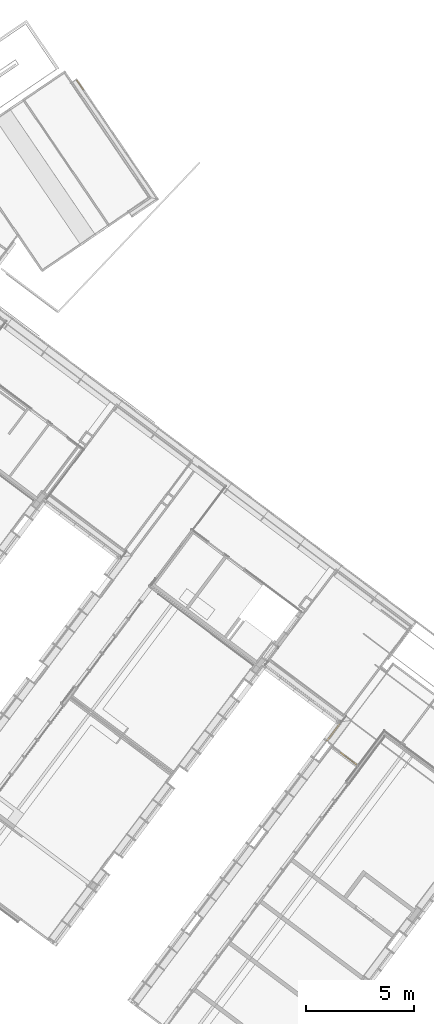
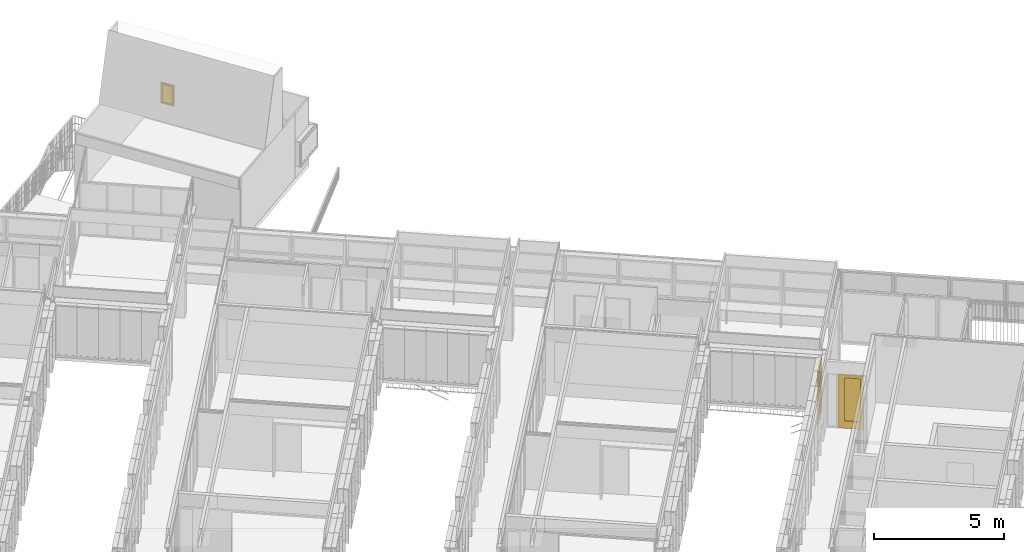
# One storey, part 238 of 243: 2 doors, 1 window, 3 elements without a shape of their own.
"""IFC2X3 building model written with IfcOpenShell, lengths in metres."""

from ifc_helpers import new_model, entity, si_unit, converted_unit, derived_unit, direction, frame, origin, place, context, subcontext, project, spatial, faceted_brep, source, transform, mapped, material, material_list, type_object, type_shapes, element, aggregate, save


model = new_model("IFC2X3")

# Units and contexts
model_context = context("Model", 3, precision=1e-05, world=origin(), true_north=direction((6.123031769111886e-17, 1.0)))
body_context = subcontext(model_context, "Body", "Model", "MODEL_VIEW")
ifc_project = project(units=[si_unit("LENGTHUNIT", "METRE"), si_unit("AREAUNIT", "SQUARE_METRE"), si_unit("VOLUMEUNIT", "CUBIC_METRE"), converted_unit("PLANEANGLEUNIT", "DEGREE", entity("IfcRatioMeasure", 0.017453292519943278), si_unit("PLANEANGLEUNIT", "RADIAN"), dimensions=[0, 0, 0, 0, 0, 0, 0]), si_unit("MASSUNIT", "GRAM", prefix="KILO"), derived_unit("MASSDENSITYUNIT", [(si_unit("MASSUNIT", "GRAM", prefix="KILO"), 1), (si_unit("LENGTHUNIT", "METRE"), -3)]), derived_unit("IONCONCENTRATIONUNIT", [(si_unit("MASSUNIT", "GRAM", prefix="KILO"), 1), (si_unit("LENGTHUNIT", "METRE"), -3)]), derived_unit("MOMENTOFINERTIAUNIT", [(si_unit("LENGTHUNIT", "METRE"), 4)]), si_unit("TIMEUNIT", "SECOND"), si_unit("FREQUENCYUNIT", "HERTZ"), si_unit("THERMODYNAMICTEMPERATUREUNIT", "DEGREE_CELSIUS"), derived_unit("THERMALTRANSMITTANCEUNIT", [(si_unit("MASSUNIT", "GRAM", prefix="KILO"), 1), (si_unit("THERMODYNAMICTEMPERATUREUNIT", "KELVIN"), -1), (si_unit("TIMEUNIT", "SECOND"), -3)]), derived_unit("THERMALCONDUCTANCEUNIT", [(si_unit("MASSUNIT", "GRAM", prefix="KILO"), 1), (si_unit("THERMODYNAMICTEMPERATUREUNIT", "KELVIN"), -1), (si_unit("TIMEUNIT", "SECOND"), -3), (si_unit("LENGTHUNIT", "METRE"), 1)]), derived_unit("VOLUMETRICFLOWRATEUNIT", [(si_unit("LENGTHUNIT", "METRE"), 3), (si_unit("TIMEUNIT", "SECOND"), -1)]), derived_unit("MASSFLOWRATEUNIT", [(si_unit("MASSUNIT", "GRAM", prefix="KILO"), 1), (si_unit("TIMEUNIT", "SECOND"), -1)]), derived_unit("ROTATIONALFREQUENCYUNIT", [(si_unit("TIMEUNIT", "SECOND"), -1)]), si_unit("ELECTRICCURRENTUNIT", "AMPERE"), si_unit("ELECTRICVOLTAGEUNIT", "VOLT"), si_unit("POWERUNIT", "WATT"), si_unit("FORCEUNIT", "NEWTON", prefix="KILO"), si_unit("ILLUMINANCEUNIT", "LUX"), si_unit("LUMINOUSFLUXUNIT", "LUMEN"), si_unit("LUMINOUSINTENSITYUNIT", "CANDELA"), derived_unit("USERDEFINED", [(si_unit("MASSUNIT", "GRAM", prefix="KILO"), -1), (si_unit("LENGTHUNIT", "METRE"), -2), (si_unit("TIMEUNIT", "SECOND"), 3), (si_unit("LUMINOUSFLUXUNIT", "LUMEN"), 1)]), derived_unit("USERDEFINED", [(si_unit("MASSUNIT", "GRAM", prefix="KILO"), 1), (si_unit("TIMEUNIT", "SECOND"), -3), (si_unit("LENGTHUNIT", "METRE"), 3), (si_unit("ELECTRICCURRENTUNIT", "AMPERE"), -2)]), derived_unit("SOUNDPOWERUNIT", [(si_unit("MASSUNIT", "GRAM", prefix="KILO"), 1), (si_unit("TIMEUNIT", "SECOND"), -3), (si_unit("LENGTHUNIT", "METRE"), 2)]), derived_unit("SOUNDPRESSUREUNIT", [(si_unit("MASSUNIT", "GRAM", prefix="KILO"), 1), (si_unit("LENGTHUNIT", "METRE"), -1), (si_unit("TIMEUNIT", "SECOND"), -2)]), derived_unit("LINEARVELOCITYUNIT", [(si_unit("LENGTHUNIT", "METRE"), 1), (si_unit("TIMEUNIT", "SECOND"), -1)]), si_unit("PRESSUREUNIT", "PASCAL"), derived_unit("USERDEFINED", [(si_unit("MASSUNIT", "GRAM", prefix="KILO"), 1), (si_unit("LENGTHUNIT", "METRE"), -2), (si_unit("TIMEUNIT", "SECOND"), -2)]), derived_unit("LINEARFORCEUNIT", [(si_unit("MASSUNIT", "GRAM", prefix="KILO"), 1), (si_unit("TIMEUNIT", "SECOND"), -2)]), derived_unit("PLANARFORCEUNIT", [(si_unit("MASSUNIT", "GRAM", prefix="KILO"), 1), (si_unit("LENGTHUNIT", "METRE"), -1), (si_unit("TIMEUNIT", "SECOND"), -2)]), derived_unit("SPECIFICHEATCAPACITYUNIT", [(si_unit("THERMODYNAMICTEMPERATUREUNIT", "KELVIN"), -1), (si_unit("LENGTHUNIT", "METRE"), 2), (si_unit("TIMEUNIT", "SECOND"), -2)]), derived_unit("HEATINGVALUEUNIT", [(si_unit("LENGTHUNIT", "METRE"), 2), (si_unit("TIMEUNIT", "SECOND"), -2)]), derived_unit("VAPORPERMEABILITYUNIT", [(si_unit("LENGTHUNIT", "METRE"), -1), (si_unit("TIMEUNIT", "SECOND"), 1)]), derived_unit("DYNAMICVISCOSITYUNIT", [(si_unit("MASSUNIT", "GRAM", prefix="KILO"), 1), (si_unit("TIMEUNIT", "SECOND"), -1), (si_unit("LENGTHUNIT", "METRE"), -1)]), derived_unit("THERMALEXPANSIONCOEFFICIENTUNIT", [(si_unit("THERMODYNAMICTEMPERATUREUNIT", "KELVIN"), -1)]), derived_unit("MODULUSOFELASTICITYUNIT", [(si_unit("MASSUNIT", "GRAM", prefix="KILO"), 1), (si_unit("LENGTHUNIT", "METRE"), -1), (si_unit("TIMEUNIT", "SECOND"), -2)]), derived_unit("ISOTHERMALMOISTURECAPACITYUNIT", [(si_unit("LENGTHUNIT", "METRE"), 3), (si_unit("MASSUNIT", "GRAM", prefix="KILO"), -1)]), derived_unit("MOISTUREDIFFUSIVITYUNIT", [(si_unit("TIMEUNIT", "SECOND"), -1), (si_unit("LENGTHUNIT", "METRE"), 2)])], contexts=[model_context])

# Site, building, storey
site_placement = place(None, frame((0.0, 0.0, 235.0), z_axis=(0.0, 0.0, 1.0), x_axis=(-0.7996477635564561, 0.6004693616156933, 0.0)))
site = spatial("IfcSite", under=ifc_project, at=site_placement, Name="Default", CompositionType="ELEMENT")
building_placement = place(site_placement, origin())
building = spatial("IfcBuilding", under=site, at=building_placement, CompositionType="ELEMENT")
storey_placement = place(building_placement, origin())
storey = spatial("IfcBuildingStorey", under=building, at=storey_placement, Name="P0- Escola", CompositionType="ELEMENT", Elevation=0.0)

# Curtain wall, window
curtain_wall_type_1 = type_object("IfcCurtainWallType", Name="Muro cortina:MC- EXT- MC7", PredefinedType="NOTDEFINED")
curtain_wall_1_placement = place(storey_placement, origin())
curtain_wall_1 = element("IfcCurtainWall", 1, at=curtain_wall_1_placement, inside=storey, type_object=curtain_wall_type_1, Name="Muro cortina:MC- EXT- MC7", ObjectType="Muro cortina:MC- EXT- MC7")
ifc_material_1 = material(Name="_Vidre")
ifc_material_2 = material(Name="_Alumini- T1- Perfil")
ifc_material_list_1 = material_list([ifc_material_1, ifc_material_2])
window_style = type_object("IfcWindowStyle", Name="MC- Alu- Conjunt finestra basculant- 68x68 cm:MC- Alu- Conjunt finestra basculant- 68x68 cm", ConstructionType="NOTDEFINED", OperationType="NOTDEFINED", ParameterTakesPrecedence=False, Sizeable=False, material=ifc_material_list_1)
shared_shape_1 = source(origin(), body_context, "Body", "Brep", [
    faceted_brep([(0.22741171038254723, -0.03559830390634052, 0.051999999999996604), (-0.22741171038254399, -0.03559830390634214, 0.051999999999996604), (-0.227411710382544, -0.011598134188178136, 0.051999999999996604), (0.22741171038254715, -0.011598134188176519, 0.051999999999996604), (0.22741171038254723, -0.03559830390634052, 0.9153027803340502), (0.22741171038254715, -0.011598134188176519, 0.9153027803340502), (-0.22741171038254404, -0.011598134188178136, 0.9153027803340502), (-0.22741171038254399, -0.03559830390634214, 0.9153027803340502)], [[[0, 1, 2, 3]], [[4, 0, 3, 5]], [[5, 3, 2, 6]], [[6, 2, 1, 7]], [[7, 1, 0, 4]], [[4, 5, 6, 7]]]),
    faceted_brep([(-0.21171088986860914, -0.00999812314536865, 0.8996019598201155), (-0.21171088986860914, -0.00999812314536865, 0.06789804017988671), (-0.21171088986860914, -0.00799810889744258, 0.06789804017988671), (-0.21171088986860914, -0.00799810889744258, 0.8996019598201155), (-0.24060893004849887, -0.007998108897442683, 0.9285000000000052), (0.24060893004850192, -0.007998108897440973, 0.9285000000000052), (0.24060893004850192, -0.007998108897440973, 0.03899999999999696), (-0.24060893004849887, -0.007998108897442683, 0.03899999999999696), (0.21171088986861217, -0.007998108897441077, 0.8996019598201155), (0.21171088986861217, -0.007998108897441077, 0.06789804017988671), (0.21171088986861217, -0.009998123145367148, 0.06789804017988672), (0.21171088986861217, -0.009998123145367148, 0.8996019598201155), (0.22741171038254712, -0.009998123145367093, 0.9153027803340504), (-0.2274117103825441, -0.009998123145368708, 0.9153027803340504), (-0.2274117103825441, -0.009998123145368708, 0.05219721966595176), (0.22741171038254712, -0.009998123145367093, 0.052197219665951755), (-0.22741171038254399, -0.04079986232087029, 0.9153027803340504), (-0.2274117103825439, -0.04079986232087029, 0.052197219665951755), (0.22741171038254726, -0.04079986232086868, 0.05219721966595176), (0.22741171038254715, -0.04079986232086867, 0.9153027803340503), (0.21171088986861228, -0.04079986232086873, 0.8996019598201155), (-0.21171088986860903, -0.04079986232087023, 0.8996019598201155), (-0.21171088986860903, -0.04079986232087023, 0.06789804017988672), (0.21171088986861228, -0.04079986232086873, 0.06789804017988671), (-0.21171088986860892, -0.06800005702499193, 0.8996019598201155), (-0.21171088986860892, -0.06800005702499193, 0.06789804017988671), (0.21171088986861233, -0.06800005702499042, 0.06789804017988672), (0.2117108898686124, -0.06800005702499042, 0.8996019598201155), (0.2581128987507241, -0.06800005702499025, 0.9460039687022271), (-0.25811289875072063, -0.06800005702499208, 0.9460039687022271), (-0.25811289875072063, -0.06800005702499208, 0.021496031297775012), (0.2581128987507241, -0.06800005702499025, 0.021496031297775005), (-0.25811289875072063, -0.06450003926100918, 0.9460039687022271), (-0.2581128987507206, -0.06450003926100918, 0.021496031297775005), (0.2581128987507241, -0.06450003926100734, 0.021496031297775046), (0.258112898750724, -0.06450003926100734, 0.9460039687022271), (0.24060893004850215, -0.0645000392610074, 0.9285000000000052), (-0.24060893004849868, -0.06450003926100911, 0.9285000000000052), (-0.24060893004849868, -0.06450003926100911, 0.03899999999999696), (0.24060893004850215, -0.0645000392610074, 0.038999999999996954)], [[[0, 1, 2, 3]], [[4, 5, 6, 7], [8, 3, 2, 9]], [[1, 10, 9, 2]], [[0, 11, 10, 1], [12, 13, 14, 15]], [[16, 17, 14, 13]], [[17, 18, 15, 14]], [[16, 19, 18, 17], [20, 21, 22, 23]], [[24, 25, 22, 21]], [[25, 26, 23, 22]], [[24, 27, 26, 25], [28, 29, 30, 31]], [[32, 33, 30, 29]], [[33, 34, 31, 30]], [[32, 35, 34, 33], [36, 37, 38, 39]], [[4, 7, 38, 37]], [[7, 6, 39, 38]], [[10, 11, 8, 9]], [[18, 19, 12, 15]], [[26, 27, 20, 23]], [[34, 35, 28, 31]], [[6, 5, 36, 39]], [[11, 0, 3, 8]], [[19, 16, 13, 12]], [[27, 24, 21, 20]], [[35, 32, 29, 28]], [[5, 4, 37, 36]]], outer=[[True], [True, False], [True], [False, True], [True], [True], [True, False], [True], [True], [False, True], [True], [True], [True, False], [True], [True], [True], [True], [True], [True], [True], [True], [True], [True], [True], [True]]),
    faceted_brep([(0.21669318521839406, 0.0, 0.9046931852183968), (0.21669318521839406, 0.0, 0.06280681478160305), (0.21669318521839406, -0.0040000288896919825, 0.06280681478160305), (0.21669318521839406, -0.0040000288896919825, 0.9046931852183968), (-0.21669318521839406, -0.0040000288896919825, 0.9046931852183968), (-0.21669318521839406, -0.0040000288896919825, 0.06280681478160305), (0.25209980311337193, -0.0040000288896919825, 0.9400998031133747), (-0.25209980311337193, -0.0040000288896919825, 0.9400998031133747), (-0.25209980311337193, -0.0040000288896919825, 0.02740019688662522), (0.25209980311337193, -0.0040000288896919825, 0.02740019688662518), (-0.21669318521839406, 0.0, 0.06280681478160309), (-0.21669318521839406, 0.0, 0.9046931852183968), (-0.279499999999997, 0.0, 0.9674999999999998), (0.279499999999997, 0.0, 0.9674999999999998), (0.279499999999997, 0.0, 0.0), (-0.279499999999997, 0.0, 0.0), (0.279499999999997, -0.05999999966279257, 0.9674999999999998), (0.2794999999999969, -0.05999999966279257, 0.0), (-0.279499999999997, -0.05999999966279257, 0.0), (-0.2794999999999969, -0.05999999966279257, 0.9674999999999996), (-0.25209980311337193, -0.05999999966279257, 0.9400998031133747), (0.25209980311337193, -0.05999999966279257, 0.9400998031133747), (0.25209980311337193, -0.05999999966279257, 0.027400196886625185), (-0.25209980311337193, -0.05999999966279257, 0.02740019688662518)], [[[0, 1, 2, 3]], [[4, 3, 2, 5], [6, 7, 8, 9]], [[1, 10, 5, 2]], [[0, 11, 10, 1], [12, 13, 14, 15]], [[16, 17, 14, 13]], [[17, 18, 15, 14]], [[16, 19, 18, 17], [20, 21, 22, 23]], [[6, 9, 22, 21]], [[9, 8, 23, 22]], [[10, 11, 4, 5]], [[18, 19, 12, 15]], [[8, 7, 20, 23]], [[11, 0, 3, 4]], [[19, 16, 13, 12]], [[7, 6, 21, 20]]], outer=[[True], [False, True], [True], [False, True], [True], [True], [True, False], [True], [True], [True], [True], [True], [True], [True], [True]]),
])
type_shapes(window_style, [shared_shape_1])
window_placement = place(curtain_wall_1_placement, frame((63.9471932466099, -52.85730784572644, 0.685), z_axis=(0.0, 0.0, 1.0), x_axis=(-0.9460037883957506, 0.3241555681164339, 0.0)))
window = element("IfcWindow", 2, at=window_placement, type_object=window_style, material=ifc_material_list_1, Name="MC- Alu- Conjunt finestra basculant- 68x68 cm:MC- Alu- Conjunt finestra basculant- 68x68 cm", ObjectType="MC- Alu- Conjunt finestra basculant- 68x68 cm:MC- Alu- Conjunt finestra basculant- 68x68 cm", OverallHeight=0.9674999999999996, OverallWidth=0.5589999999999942, context=body_context, shape_type="MappedRepresentation", body=[
    mapped(shared_shape_1, transform((0.0, 0.0, 0.0), scale=1.0)),
])
aggregate(curtain_wall_1, [window])

# Curtain wall, door
curtain_wall_type_2 = type_object("IfcCurtainWallType", Name="Muro cortina:MC- EXT- MC5", PredefinedType="NOTDEFINED")
curtain_wall_2_placement = place(storey_placement, origin())
curtain_wall_2 = element("IfcCurtainWall", 3, at=curtain_wall_2_placement, inside=storey, type_object=curtain_wall_type_2, Name="Muro cortina:MC- EXT- MC5", ObjectType="Muro cortina:MC- EXT- MC5")
ifc_material_list_2 = material_list([ifc_material_2, ifc_material_1])
door_style_1 = type_object("IfcDoorStyle", Name="MC- Alu- Conjunt porta- 70x60 cm- +15cm:MC- Alu- Conjunt porta- 70x60 cm- +15cm", ConstructionType="NOTDEFINED", OperationType="SINGLE_SWING_RIGHT", ParameterTakesPrecedence=False, Sizeable=False, material=ifc_material_list_2)
shared_shape_2 = source(origin(), body_context, "Body", "Brep", [
    faceted_brep([(-0.41167409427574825, -0.06999999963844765, 0.024000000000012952), (-0.41167409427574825, -0.004300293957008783, 0.024000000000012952), (0.4116740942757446, -0.004300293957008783, 0.024000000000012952), (0.4116740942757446, -0.06999999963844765, 0.024000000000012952), (-0.4116740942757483, -0.004300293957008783, 2.410449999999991), (-0.4116740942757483, -0.06999999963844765, 2.410449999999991), (0.4116740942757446, -0.004300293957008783, 2.410449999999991), (0.4356740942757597, -0.004300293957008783, 0.0), (0.4356740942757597, -0.004300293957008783, 2.434450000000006), (-0.43567409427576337, -0.004300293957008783, 2.434450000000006), (-0.43567409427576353, -0.004300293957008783, 0.0), (0.4116740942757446, -0.06999999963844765, 2.410449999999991), (-0.33507409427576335, -0.06999999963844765, 2.333850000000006), (0.33507409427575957, -0.06999999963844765, 2.333850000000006), (0.33507409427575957, -0.06999999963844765, 0.20400000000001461), (-0.33507409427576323, -0.06999999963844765, 0.20400000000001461), (0.4356740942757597, -2.945720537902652e-07, 2.434450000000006), (0.4356740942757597, -2.945720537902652e-07, 0.0), (-0.43567409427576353, -2.945720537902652e-07, 0.0), (-0.43567409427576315, -2.945720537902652e-07, 2.434450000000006), (0.3350740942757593, -2.945720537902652e-07, 2.333850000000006), (-0.3350740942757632, -2.945720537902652e-07, 2.333850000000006), (-0.33507409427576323, -2.945720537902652e-07, 0.20400000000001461), (0.3350740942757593, -2.945720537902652e-07, 0.20400000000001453), (0.3350740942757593, -0.005500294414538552, 2.333850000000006), (0.33507409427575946, -0.005500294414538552, 0.20400000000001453), (-0.33507409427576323, -0.005500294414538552, 0.20400000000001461), (-0.33507409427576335, -0.005500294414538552, 2.333850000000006), (0.3600740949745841, -0.005500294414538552, 2.3588500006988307), (-0.36007409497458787, -0.005500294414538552, 2.3588500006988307), (-0.36007409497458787, -0.005500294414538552, 0.17899999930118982), (0.3600740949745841, -0.005500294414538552, 0.17899999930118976), (0.3600740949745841, -0.051000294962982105, 2.3588500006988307), (0.3600740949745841, -0.051000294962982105, 0.17899999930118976), (-0.36007409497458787, -0.051000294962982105, 0.17899999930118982), (-0.3600740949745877, -0.051000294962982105, 2.3588500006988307), (0.3350740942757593, -0.051000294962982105, 2.333850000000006), (-0.3350740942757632, -0.051000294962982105, 2.333850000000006), (-0.33507409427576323, -0.051000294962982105, 0.20400000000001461), (0.3350740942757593, -0.051000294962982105, 0.20400000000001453)], [[[0, 1, 2, 3]], [[4, 1, 0, 5]], [[2, 1, 4, 6], [7, 8, 9, 10]], [[2, 6, 11, 3]], [[12, 13, 14, 15], [11, 5, 0, 3]], [[16, 8, 7, 17]], [[10, 18, 17, 7]], [[18, 19, 16, 17], [20, 21, 22, 23]], [[24, 20, 23, 25]], [[23, 22, 26, 25]], [[27, 24, 25, 26], [28, 29, 30, 31]], [[32, 28, 31, 33]], [[33, 31, 30, 34]], [[35, 32, 33, 34], [36, 37, 38, 39]], [[13, 36, 39, 14]], [[39, 38, 15, 14]], [[9, 19, 18, 10]], [[21, 27, 26, 22]], [[29, 35, 34, 30]], [[37, 12, 15, 38]], [[19, 9, 8, 16]], [[27, 21, 20, 24]], [[35, 29, 28, 32]], [[12, 37, 36, 13]], [[4, 5, 11, 6]]], outer=[[True], [True], [False, True], [True], [False, True], [True], [True], [True, False], [True], [True], [False, True], [True], [True], [True, False], [True], [True], [True], [True], [True], [True], [True], [True], [True], [True], [True]]),
    faceted_brep([(0.3600740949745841, -0.00910019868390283, 0.17899999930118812), (0.3600740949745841, -0.041100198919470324, 0.17899999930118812), (-0.3600740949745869, -0.041100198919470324, 0.17899999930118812), (-0.36007409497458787, -0.00910019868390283, 0.17899999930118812), (0.3600740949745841, -0.00910019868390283, 2.358850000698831), (0.3600740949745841, -0.041100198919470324, 2.358850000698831), (-0.3600740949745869, -0.041100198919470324, 2.358850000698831), (-0.36007409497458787, -0.00910019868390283, 2.358850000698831)], [[[0, 1, 2, 3]], [[4, 5, 1, 0]], [[5, 6, 2, 1]], [[6, 7, 3, 2]], [[7, 4, 0, 3]], [[4, 7, 6, 5]]]),
    faceted_brep([(0.4849740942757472, 0.0, 0.0), (0.4849740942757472, -0.06999999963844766, 0.0), (0.41767409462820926, -0.06999999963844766, 0.0), (0.41767409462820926, -0.061199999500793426, 0.0), (0.43317406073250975, -0.061199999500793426, 0.0), (0.43317406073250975, -0.010300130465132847, 0.0), (0.4436740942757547, -0.010300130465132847, 0.0), (0.4436740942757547, 0.0, 0.0), (0.4849740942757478, 0.0, 2.4837499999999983), (0.4849740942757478, -0.06999999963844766, 2.4837499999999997), (-0.4849740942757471, -0.06999999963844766, 2.4837499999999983), (-0.4849740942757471, -0.06999999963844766, 0.0), (-0.4176740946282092, -0.06999999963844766, 0.0), (-0.4176740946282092, -0.06999999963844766, 2.4164500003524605), (0.41767409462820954, -0.06999999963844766, 2.416450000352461), (0.41767409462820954, -0.061199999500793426, 2.416450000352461), (-0.4176740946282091, -0.061199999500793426, 2.4164500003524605), (-0.4176740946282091, -0.061199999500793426, 0.0), (-0.43317406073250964, -0.061199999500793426, 0.0), (-0.43317406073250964, -0.061199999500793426, 2.4319499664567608), (0.43317406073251, -0.061199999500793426, 2.431949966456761), (0.43317406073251, -0.010300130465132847, 2.431949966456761), (-0.4331740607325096, -0.010300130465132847, 2.4319499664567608), (-0.4331740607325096, -0.010300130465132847, 0.0), (-0.44367409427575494, -0.010300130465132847, 0.0), (-0.44367409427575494, -0.010300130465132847, 2.4424500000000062), (0.4436740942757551, -0.010300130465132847, 2.4424500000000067), (0.4436740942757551, 0.0, 2.4424500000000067), (-0.4436740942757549, 0.0, 2.4424500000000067), (-0.4436740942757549, 0.0, 0.0), (-0.48497409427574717, 0.0, 0.0), (-0.48497409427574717, 0.0, 2.4837499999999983)], [[[0, 1, 2, 3, 4, 5, 6, 7]], [[1, 0, 8, 9]], [[2, 1, 9, 10, 11, 12, 13, 14]], [[3, 2, 14, 15]], [[4, 3, 15, 16, 17, 18, 19, 20]], [[5, 4, 20, 21]], [[6, 5, 21, 22, 23, 24, 25, 26]], [[7, 6, 26, 27]], [[0, 7, 27, 28, 29, 30, 31, 8]], [[30, 29, 24, 23, 18, 17, 12, 11]], [[28, 25, 24, 29]], [[22, 19, 18, 23]], [[16, 13, 12, 17]], [[10, 31, 30, 11]], [[9, 8, 31, 10]], [[15, 14, 13, 16]], [[21, 20, 19, 22]], [[27, 26, 25, 28]]]),
])
type_shapes(door_style_1, [shared_shape_2])
door_1_placement = place(curtain_wall_2_placement, frame((36.64514768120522, -35.915165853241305, 0.020000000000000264), z_axis=(0.0, 0.0, 1.0), x_axis=(0.0, -1.0, 0.0)))
door_1 = element("IfcDoor", 4, at=door_1_placement, type_object=door_style_1, material=ifc_material_list_2, Name="MC- Alu- Conjunt porta- 70x60 cm- +15cm:MC- Alu- Conjunt porta- 70x60 cm- +15cm", ObjectType="MC- Alu- Conjunt porta- 70x60 cm- +15cm:MC- Alu- Conjunt porta- 70x60 cm- +15cm", OverallHeight=2.483750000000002, OverallWidth=0.9699481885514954, context=body_context, shape_type="MappedRepresentation", body=[
    mapped(shared_shape_2, transform((0.0, 0.0, 0.0), scale=1.0)),
])
aggregate(curtain_wall_2, [door_1])

curtain_wall_type_3 = type_object("IfcCurtainWallType", Name="Muro cortina:MC- INT- C2", PredefinedType="NOTDEFINED")
curtain_wall_3_placement = place(storey_placement, origin())
curtain_wall_3 = element("IfcCurtainWall", 5, at=curtain_wall_3_placement, inside=storey, type_object=curtain_wall_type_3, Name="Muro cortina:MC- INT- C2", ObjectType="Muro cortina:MC- INT- C2")
ifc_material_3 = material(Name="_Fusta massisa- T1")
ifc_material_list_3 = material_list([ifc_material_3, ifc_material_1])
door_style_2 = type_object("IfcDoorStyle", Name="MC- Fusta- conjunt porta:MC- Fusta- conjunt Porta aules", ConstructionType="NOTDEFINED", OperationType="NOTDEFINED", ParameterTakesPrecedence=False, Sizeable=False, material=ifc_material_list_3)
shared_shape_3 = source(origin(), body_context, "Body", "Brep", [
    faceted_brep([(-0.2600000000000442, -0.034999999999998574, 2.3950000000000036), (-0.2600000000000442, -0.004999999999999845, 2.3950000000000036), (-0.2600000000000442, -0.004999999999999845, 0.3299999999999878), (-0.2600000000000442, -0.034999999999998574, 0.3299999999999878), (0.3850000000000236, -0.004999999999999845, 0.3299999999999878), (0.3850000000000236, -0.034999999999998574, 0.3299999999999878), (0.3850000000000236, -0.004999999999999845, 2.3950000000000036), (0.3850000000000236, -0.034999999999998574, 2.3950000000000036), (-0.24500000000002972, -0.004999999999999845, 2.380000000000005), (-0.24500000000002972, -0.004999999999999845, 0.3449999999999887), (0.3700000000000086, -0.004999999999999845, 0.3449999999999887), (0.37000000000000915, -0.004999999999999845, 2.380000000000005), (-0.24500000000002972, -0.034999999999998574, 2.380000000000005), (0.37000000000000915, -0.034999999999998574, 2.380000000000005), (0.3700000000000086, -0.034999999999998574, 0.3449999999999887), (-0.24500000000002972, -0.034999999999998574, 0.3449999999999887)], [[[0, 1, 2, 3]], [[3, 2, 4, 5]], [[5, 4, 6, 7]], [[8, 9, 10, 11], [1, 6, 4, 2]], [[12, 13, 14, 15], [0, 3, 5, 7]], [[15, 9, 8, 12]], [[14, 10, 9, 15]], [[13, 11, 10, 14]], [[7, 6, 1, 0]], [[12, 8, 11, 13]]], outer=[[True], [True], [True], [False, True], [False, True], [True], [True], [True], [True], [True]]),
    faceted_brep([(-0.45500000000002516, 0.02999999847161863, 0.0), (0.4549999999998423, 0.029999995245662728, 0.0), (0.4549999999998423, 0.0, 0.0), (0.4700000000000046, 0.0, 0.0), (0.4700000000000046, -0.02999999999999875, 0.0), (-0.47000000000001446, -0.02999999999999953, 0.0), (-0.47000000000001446, 0.0, 0.0), (-0.45500000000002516, 0.0, 0.0), (-0.47000000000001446, -0.029999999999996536, 2.5050000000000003), (0.4700000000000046, -0.029999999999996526, 2.5050000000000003), (-0.26000000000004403, -0.02999999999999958, 0.3300000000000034), (-0.26000000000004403, -0.030000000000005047, 2.394999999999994), (0.3850000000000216, -0.02999999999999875, 2.394999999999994), (0.3850000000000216, -0.02999999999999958, 0.3300000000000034), (-0.47000000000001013, 0.0, 2.5050000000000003), (0.4700000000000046, 0.0, 2.5050000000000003), (-0.45500000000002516, 0.02999999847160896, 2.4899999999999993), (-0.45500000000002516, 0.0, 2.4899999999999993), (0.4549999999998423, 0.0, 2.4899999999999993), (0.4549999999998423, 0.029999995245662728, 2.4899999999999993), (0.3700000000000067, 0.02999999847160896, 0.3450000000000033), (0.3700000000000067, 0.02999999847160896, 2.379999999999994), (-0.2450000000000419, 0.029999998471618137, 2.379999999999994), (-0.2450000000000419, 0.02999999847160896, 0.3450000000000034), (-0.2450000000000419, 0.015000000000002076, 0.3450000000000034), (0.3700000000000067, 0.015000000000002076, 0.3450000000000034), (-0.2450000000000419, 0.015000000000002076, 2.379999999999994), (0.3700000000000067, 0.01499999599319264, 2.379999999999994), (0.3850000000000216, 0.015000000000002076, 0.3300000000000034), (0.3850000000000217, 0.015000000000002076, 2.394999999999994), (-0.2600000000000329, 0.015000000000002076, 2.394999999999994), (-0.26000000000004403, 0.015000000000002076, 0.3300000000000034), (-0.2600000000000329, 0.01499999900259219, 0.3300000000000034), (-0.2600000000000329, 0.014999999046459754, 2.394999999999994), (0.3700000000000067, 0.029999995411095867, 2.379999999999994), (-0.2450000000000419, 0.01499999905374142, 2.379999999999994), (0.3850000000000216, 0.014999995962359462, 2.394999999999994)], [[[0, 1, 2, 3, 4, 5, 6, 7]], [[8, 5, 4, 9], [10, 11, 12, 13]], [[8, 14, 6, 5]], [[15, 9, 4, 3]], [[16, 0, 7, 17]], [[14, 15, 3, 2, 18, 17, 7, 6]], [[18, 2, 1, 19]], [[20, 21, 22, 23], [16, 19, 1, 0]], [[23, 24, 25, 20]], [[23, 22, 26, 24]], [[25, 27, 21, 20]], [[24, 26, 27, 25], [28, 29, 30, 31]], [[13, 28, 32, 10]], [[31, 33, 11, 10]], [[13, 12, 29, 28]], [[9, 15, 14, 8]], [[17, 18, 19, 16]], [[34, 27, 35, 22]], [[11, 30, 36, 12]]], outer=[[True], [True, False], [True], [True], [True], [True], [True], [False, True], [True], [True], [True], [False, True], [True], [True], [True], [True], [True], [True], [True]]),
    faceted_brep([(0.38500000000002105, 0.014999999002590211, 0.3300000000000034), (0.3850000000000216, -0.004999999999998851, 0.3300000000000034), (-0.26000000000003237, -0.0049999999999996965, 0.3300000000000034), (-0.26000000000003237, 0.014999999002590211, 0.3300000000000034), (0.38500000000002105, 0.014999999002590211, 2.3950000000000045), (-0.26000000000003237, 0.014999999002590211, 2.3950000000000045), (-0.26000000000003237, -0.0049999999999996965, 2.3950000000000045), (0.3850000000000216, -0.004999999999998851, 2.3950000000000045)], [[[0, 1, 2, 3]], [[4, 0, 3, 5]], [[5, 3, 2, 6]], [[6, 2, 1, 7]], [[7, 1, 0, 4]], [[4, 5, 6, 7]]]),
    faceted_brep([(-0.4800000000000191, -0.029999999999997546, 0.0), (-0.4800000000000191, -0.02599999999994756, 0.0), (-0.48500000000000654, -0.02599999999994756, 0.0), (-0.48500000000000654, 0.02600000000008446, 0.0), (-0.48000000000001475, 0.02600000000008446, 0.0), (-0.48000000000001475, 0.0300000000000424, 0.0), (-0.45500000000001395, 0.0300000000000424, 0.0), (-0.45500000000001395, 0.0, 0.0), (-0.4700000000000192, 0.0, 0.0), (-0.4700000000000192, -0.029999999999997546, 0.0), (-0.4700000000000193, -0.029999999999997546, 2.5050000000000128), (0.4700000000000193, -0.029999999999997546, 2.5050000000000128), (0.4700000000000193, -0.029999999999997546, 0.0), (0.4800000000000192, -0.029999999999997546, 0.0), (0.4800000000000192, -0.029999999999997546, 2.5150000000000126), (-0.48000000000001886, -0.029999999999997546, 2.515000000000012), (-0.47000000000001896, 0.0, 2.5050000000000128), (-0.45500000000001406, 0.0, 2.4900000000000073), (0.45500000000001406, 0.0, 2.4900000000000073), (0.45500000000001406, 0.0, 0.0), (0.4700000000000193, 0.0, 0.0), (0.4700000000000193, 0.0, 2.5050000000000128), (-0.455000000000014, 0.0300000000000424, 2.4900000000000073), (-0.48000000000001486, 0.0300000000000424, 2.515000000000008), (0.48000000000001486, 0.0300000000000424, 2.515000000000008), (0.48000000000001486, 0.0300000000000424, 0.0), (0.45500000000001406, 0.0300000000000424, 0.0), (0.45500000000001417, 0.0300000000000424, 2.4900000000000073), (-0.4800000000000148, 0.02600000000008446, 2.515000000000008), (-0.4850000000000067, 0.02600000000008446, 2.52), (0.4850000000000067, 0.02600000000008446, 2.52), (0.4850000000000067, 0.02600000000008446, 0.0), (0.48000000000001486, 0.02600000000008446, 0.0), (0.480000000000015, 0.02600000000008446, 2.515000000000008), (-0.48500000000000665, -0.02599999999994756, 2.52), (-0.4800000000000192, -0.02599999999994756, 2.5150000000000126), (0.4800000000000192, -0.02599999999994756, 2.5150000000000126), (0.4800000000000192, -0.02599999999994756, 0.0), (0.4850000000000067, -0.02599999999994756, 0.0), (0.4850000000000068, -0.02599999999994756, 2.52)], [[[0, 1, 2, 3, 4, 5, 6, 7, 8, 9]], [[9, 10, 11, 12, 13, 14, 15, 0]], [[8, 16, 10, 9]], [[7, 17, 18, 19, 20, 21, 16, 8]], [[6, 22, 17, 7]], [[5, 23, 24, 25, 26, 27, 22, 6]], [[4, 28, 23, 5]], [[3, 29, 30, 31, 32, 33, 28, 4]], [[2, 34, 29, 3]], [[1, 35, 36, 37, 38, 39, 34, 2]], [[0, 15, 35, 1]], [[14, 13, 37, 36]], [[13, 12, 20, 19, 26, 25, 32, 31, 38, 37]], [[21, 20, 12, 11]], [[27, 26, 19, 18]], [[33, 32, 25, 24]], [[39, 38, 31, 30]], [[16, 21, 11, 10]], [[22, 27, 18, 17]], [[28, 33, 24, 23]], [[34, 39, 30, 29]], [[15, 14, 36, 35]]]),
])
type_shapes(door_style_2, [shared_shape_3])
door_2_placement = place(curtain_wall_3_placement, frame((35.325147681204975, -35.36769175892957, 0.0), z_axis=(0.0, 0.0, 1.0), x_axis=(-1.0, 0.0, 0.0)))
door_2 = element("IfcDoor", 6, at=door_2_placement, type_object=door_style_2, material=ifc_material_list_3, Name="MC- Fusta- conjunt porta:MC- Fusta- conjunt Porta aules", ObjectType="MC- Fusta- conjunt porta:MC- Fusta- conjunt Porta aules", OverallHeight=2.52, OverallWidth=0.9700000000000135, context=body_context, shape_type="MappedRepresentation", body=[
    mapped(shared_shape_3, transform((0.0, 0.0, 0.0), scale=1.0)),
])
aggregate(curtain_wall_3, [door_2])

save(model, "model.ifc")
